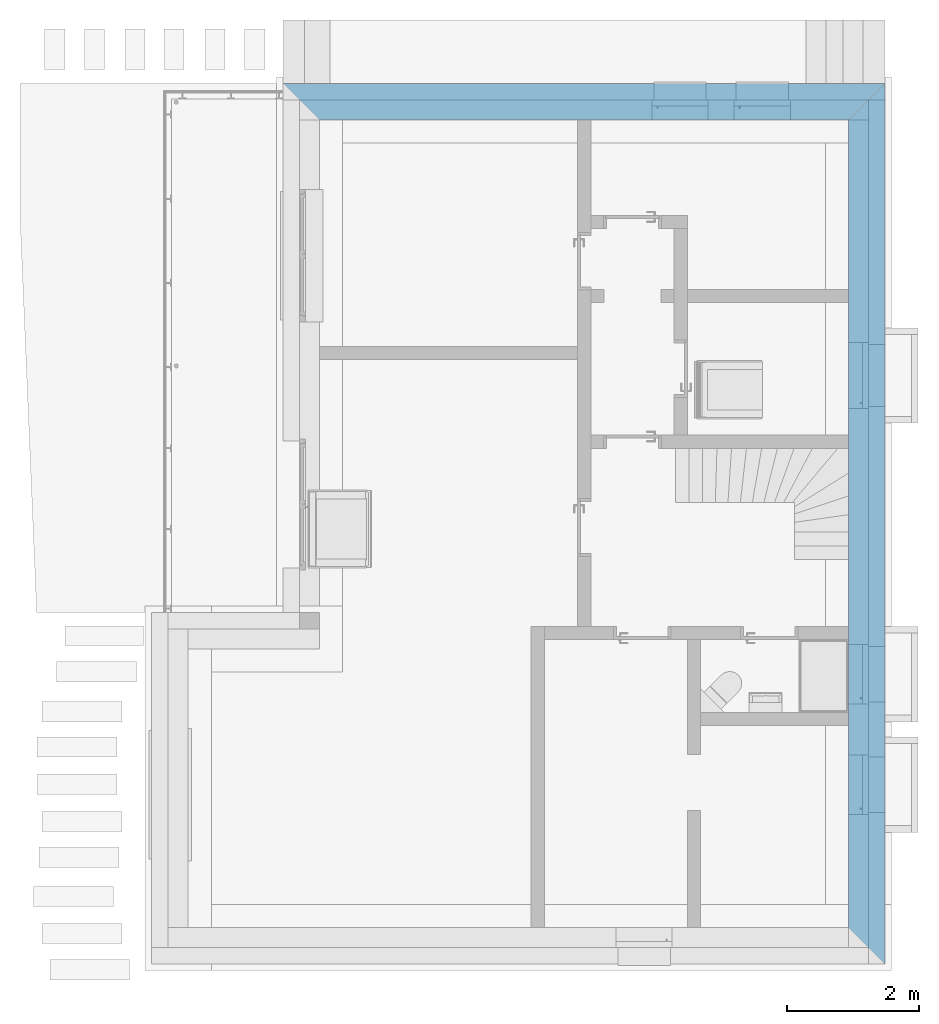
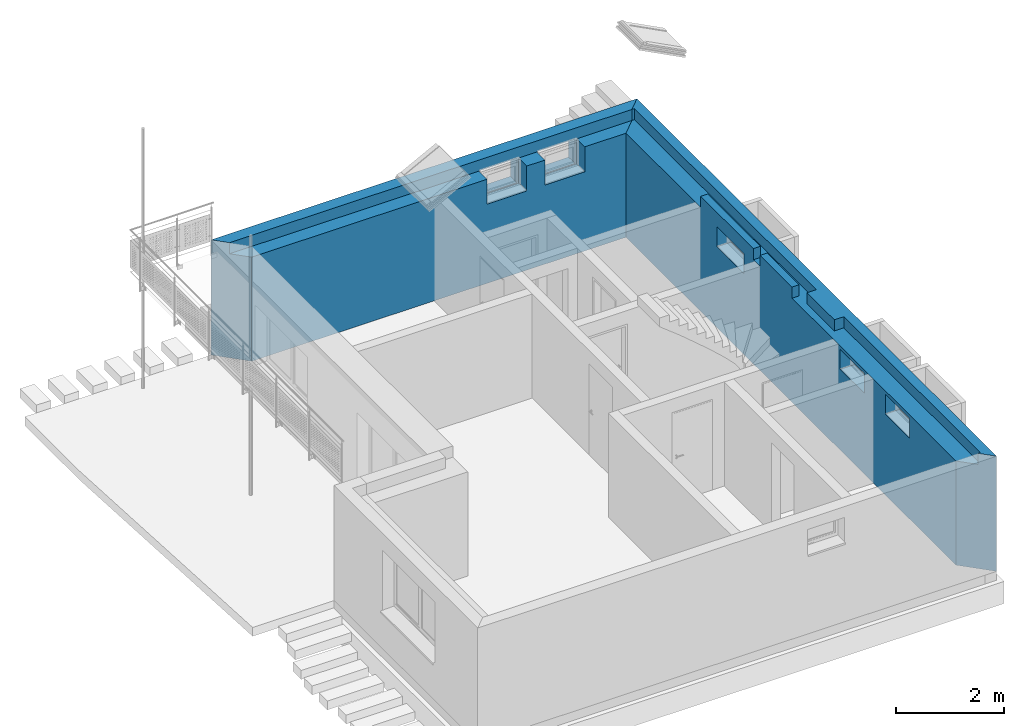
# One storey, part 15 of 22: 2 walls.
"""IFC2X3 building model written with IfcOpenShell, lengths in metres."""

import ifcopenshell
import ifcopenshell.guid

model = None  # the IFC model being written
_history = None  # IfcOwnerHistory: only IFC2X3 demands one
_inside = {}  # id of a spatial element -> (the spatial element, [elements in it])
_under = {}  # id of a project, library or spatial element -> (it, [spatial elements below it])
_declared = {}  # id of a project -> (the project, [libraries it declares])
_typed = {}  # id of a type object -> (the type object, [elements of that type])
_made_of = {}  # id of a material, layer set ... -> (it, [elements and type objects made of it])


def new_model(schema):
    """Start an empty IFC model of exactly this schema.

    Asked for "IFC4X3", IfcOpenShell would pick the latest addendum, in which some entities
    have other attributes; the version numbers below select the first issue.
    IFC2X3 requires an IfcOwnerHistory on every rooted entity: one is made here for all.
    """
    global model, _history
    if schema == "IFC4X3":
        model = ifcopenshell.file(schema_version=(4, 3, 0, 0))
    else:
        model = ifcopenshell.file(schema=schema)
    _inside.clear()
    _under.clear()
    _declared.clear()
    _typed.clear()
    _made_of.clear()
    _history = None
    if model.schema == "IFC2X3":
        org = make("IfcOrganization", Name="unknown")
        user = make(
            "IfcPersonAndOrganization",
            ThePerson=make("IfcPerson", FamilyName="unknown"),
            TheOrganization=org,
        )
        app = make(
            "IfcApplication",
            ApplicationDeveloper=org,
            Version="unknown",
            ApplicationFullName="unknown",
            ApplicationIdentifier="unknown",
        )
        _history = make(
            "IfcOwnerHistory",
            OwningUser=user,
            OwningApplication=app,
            ChangeAction="ADDED",
            CreationDate=0,
        )
    return model


def make(cls, **values):
    """One entity of the class cls with the attributes given. An attribute that is None is left unset."""
    return model.create_entity(
        cls, **{name: value for name, value in values.items() if value is not None}
    )


def entity(cls, *values):
    """Any entity or typed value of the class cls, its attributes in the order of the schema. None: left unset."""
    e = model.create_entity(cls)
    for i, value in enumerate(values):
        if value is not None:
            e[i] = value
    return e


def rooted(cls, **values):
    """An entity with a GlobalId (a new one), such as an element, a storey or a relation."""
    return make(cls, GlobalId=ifcopenshell.guid.new(), OwnerHistory=_history, **values)


def si_unit(unit_type, name, prefix=None):
    """IfcSIUnit, for example si_unit("LENGTHUNIT", "METRE", prefix="MILLI")."""
    return make("IfcSIUnit", UnitType=unit_type, Prefix=prefix, Name=name)


def converted_unit(unit_type, name, factor, base, dimensions=None, offset=None):
    """IfcConversionBasedUnit, such as the inch: factor (a typed value) times the base unit."""
    return make(
        "IfcConversionBasedUnit"
        if offset is None
        else "IfcConversionBasedUnitWithOffset",
        ConversionOffset=offset,
        Dimensions=None
        if dimensions is None
        else entity("IfcDimensionalExponents", *dimensions),
        UnitType=unit_type,
        Name=name,
        ConversionFactor=make(
            "IfcMeasureWithUnit", ValueComponent=factor, UnitComponent=base
        ),
    )


def derived_unit(unit_type, elements):
    """IfcDerivedUnit: a product of units, each with its exponent."""
    return make(
        "IfcDerivedUnit",
        Elements=[
            make("IfcDerivedUnitElement", Unit=unit, Exponent=power)
            for unit, power in elements
        ],
        UnitType=unit_type,
    )


def assignment(units):
    """IfcUnitAssignment: the units of a project."""
    return None if units is None else make("IfcUnitAssignment", Units=units)


def point(xyz):
    """IfcCartesianPoint."""
    return None if xyz is None else make("IfcCartesianPoint", Coordinates=xyz)


def direction(xyz):
    """IfcDirection."""
    return None if xyz is None else make("IfcDirection", DirectionRatios=xyz)


def frame(location, z_axis=None, x_axis=None):
    """IfcAxis2Placement3D, a coordinate frame: its origin and axes. An axis left out is left unset."""
    return make(
        "IfcAxis2Placement3D",
        Location=point(location),
        Axis=direction(z_axis),
        RefDirection=direction(x_axis),
    )


def origin():
    """The frame at (0, 0, 0) with its axes left unset."""
    return frame((0.0, 0.0, 0.0))


def place(relative_to, where):
    """IfcLocalPlacement: puts the frame where relative to a parent placement (None: the world)."""
    return make(
        "IfcLocalPlacement", PlacementRelTo=relative_to, RelativePlacement=where
    )


def context(
    kind, dimensions, precision=None, world=None, true_north=None, identifier=None
):
    """IfcGeometricRepresentationContext, for example the 3D "Model" context."""
    return make(
        "IfcGeometricRepresentationContext",
        ContextIdentifier=identifier,
        ContextType=kind,
        CoordinateSpaceDimension=dimensions,
        Precision=precision,
        WorldCoordinateSystem=world,
        TrueNorth=true_north,
    )


def subcontext(parent, identifier, kind, view, scale=None):
    """IfcGeometricRepresentationSubContext, for example "Body" below "Model"."""
    return make(
        "IfcGeometricRepresentationSubContext",
        ContextIdentifier=identifier,
        ContextType=kind,
        ParentContext=parent,
        TargetScale=scale,
        TargetView=view,
    )


def project(units=None, contexts=None):
    """IfcProject with its units and contexts."""
    return rooted(
        "IfcProject",
        Name="project",
        RepresentationContexts=contexts,
        UnitsInContext=assignment(units),
    )


def spatial(cls, under=None, at=None, **own):
    """A site, building, storey or space (cls), placed at a placement, below another one or the project."""
    s = rooted(cls, ObjectPlacement=at, **own)
    if under is not None:
        _under.setdefault(under.id(), (under, []))[1].append(s)
    return s


def faces_of(points, faces, orient=None, outer=None):
    """IfcFace entities. A face is a list of loops; a loop is a list of indices into points, from 0.

    orient and outer hold one flag for each loop. By default every Orientation is true, the
    first loop of a face is its IfcFaceOuterBound and the others are IfcFaceBound.
    """
    made = []
    for i, loops in enumerate(faces):
        bounds = []
        for j, loop in enumerate(loops):
            is_outer = j == 0 if outer is None else outer[i][j]
            bounds.append(
                make(
                    "IfcFaceOuterBound" if is_outer else "IfcFaceBound",
                    Bound=make("IfcPolyLoop", Polygon=[points[k] for k in loop]),
                    Orientation=True if orient is None else orient[i][j],
                )
            )
        made.append(make("IfcFace", Bounds=bounds))
    return made


def faceted_brep(points, faces, orient=None, outer=None, voids=None):
    """IfcFacetedBrep: a solid bounded by flat faces; with voids (closed shells), ...WithVoids."""
    shared = [point(p) for p in points]
    hull = make("IfcClosedShell", CfsFaces=faces_of(shared, faces, orient, outer))
    if voids is None:
        return make("IfcFacetedBrep", Outer=hull)
    return make(
        "IfcFacetedBrepWithVoids",
        Outer=hull,
        Voids=[
            make(cls, CfsFaces=faces_of(shared, fs, o, b)) for cls, fs, o, b in voids
        ],
    )


def shape(context_of_items, identifier, shape_type, items):
    """IfcShapeRepresentation: the items that make up one representation, for example the "Body"."""
    return make(
        "IfcShapeRepresentation",
        ContextOfItems=context_of_items,
        RepresentationIdentifier=identifier,
        RepresentationType=shape_type,
        Items=items,
    )


def material(Name=None, Category=None):
    """IfcMaterial."""
    return make("IfcMaterial", Name=Name, Category=Category)


def layer(
    of_material, thickness, ventilated=None, Name=None, Category=None, Priority=None
):
    """IfcMaterialLayer: one layer of a wall or slab, of a material (None: an air gap)."""
    return make(
        "IfcMaterialLayer",
        Material=of_material,
        LayerThickness=thickness,
        IsVentilated=ventilated,
        Name=Name,
        Category=Category,
        Priority=Priority,
    )


def layer_set(layers, Name=None):
    """IfcMaterialLayerSet."""
    return make("IfcMaterialLayerSet", MaterialLayers=layers, LayerSetName=Name)


def made_of(thing, what):
    """Note that an element or type object is made of a material, layer set ...; save() writes the relation."""
    if what is not None:
        _made_of.setdefault(what.id(), (what, []))[1].append(thing)
    return thing


def type_object(cls, material=None, **own):
    """A type object (cls), such as IfcWallType, which elements share."""
    return made_of(rooted(cls, **own), material)


def element(
    cls,
    number,
    at=None,
    inside=None,
    cuts=None,
    type_object=None,
    material=None,
    context=None,
    identifier="Body",
    shape_type=None,
    held_by="IfcProductDefinitionShape",
    body=None,
    shapes=None,
    **own,
):
    """One element of the class cls, such as IfcWall. Its Tag is "e" and its number.

    at: its placement. inside: the storey or other place that contains it. cuts: it is an
    opening in that element (IfcRelVoidsElement). A single representation is given by context,
    identifier, shape_type and body (its items); several are given by shapes. held_by: the class
    of the entity that holds the representations. save() writes the other relations.
    """
    e = rooted(cls, Tag="e%d" % number, ObjectPlacement=at, **own)
    if body is not None:
        shapes = [shape(context, identifier, shape_type, body)]
    if shapes is not None:
        e.Representation = make(held_by, Representations=shapes)
    if inside is not None:
        _inside.setdefault(inside.id(), (inside, []))[1].append(e)
    if cuts is not None:
        rooted(
            "IfcRelVoidsElement", RelatingBuildingElement=cuts, RelatedOpeningElement=e
        )
    if type_object is not None:
        _typed.setdefault(type_object.id(), (type_object, []))[1].append(e)
    return made_of(e, material)


def aggregate(whole, parts):
    """IfcRelAggregates: a whole, such as a stair, and the parts it consists of."""
    return rooted("IfcRelAggregates", RelatingObject=whole, RelatedObjects=parts)


def save(model, path):
    """Write the relations noted so far, then the file.

    IfcRelAggregates (storeys below a building ...), IfcRelContainedInSpatialStructure (elements
    in a storey), IfcRelDefinesByType, IfcRelAssociatesMaterial and IfcRelDeclares: one each for
    every whole, place, type object, material and project.
    """
    for whole, parts in _under.values():
        aggregate(whole, parts)
    for where, things in _inside.values():
        rooted(
            "IfcRelContainedInSpatialStructure",
            RelatedElements=things,
            RelatingStructure=where,
        )
    for kind, things in _typed.values():
        rooted("IfcRelDefinesByType", RelatedObjects=things, RelatingType=kind)
    for what, things in _made_of.values():
        rooted("IfcRelAssociatesMaterial", RelatedObjects=things, RelatingMaterial=what)
    for by, libraries in _declared.values():
        rooted("IfcRelDeclares", RelatingContext=by, RelatedDefinitions=libraries)
    model.write(path)


model = new_model("IFC2X3")

# Units and contexts
model_context = context("Model", 3, precision=1e-05, world=origin(), true_north=direction((6.123233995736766e-17, 1.0)))
body_context = subcontext(model_context, "Body", "Model", "MODEL_VIEW")
ifc_project = project(units=[si_unit("LENGTHUNIT", "METRE"), si_unit("AREAUNIT", "SQUARE_METRE"), si_unit("VOLUMEUNIT", "CUBIC_METRE"), si_unit("POWERUNIT", "WATT"), derived_unit("USERDEFINED", [(si_unit("MASSUNIT", "GRAM", prefix="KILO"), 1), (si_unit("TIMEUNIT", "SECOND"), -3)]), derived_unit("THERMALRESISTANCEUNIT", [(si_unit("MASSUNIT", "GRAM", prefix="KILO"), -1), (si_unit("TIMEUNIT", "SECOND"), 3), (si_unit("THERMODYNAMICTEMPERATUREUNIT", "KELVIN"), 1)]), derived_unit("USERDEFINED", [(si_unit("MASSUNIT", "GRAM", prefix="KILO"), 1), (si_unit("TIMEUNIT", "SECOND"), -2), (si_unit("THERMODYNAMICTEMPERATUREUNIT", "KELVIN"), -1)]), derived_unit("THERMALTRANSMITTANCEUNIT", [(si_unit("MASSUNIT", "GRAM", prefix="KILO"), 1), (si_unit("TIMEUNIT", "SECOND"), -3), (si_unit("THERMODYNAMICTEMPERATUREUNIT", "KELVIN"), -1)]), converted_unit("PLANEANGLEUNIT", "DEGREE", entity("IfcPlaneAngleMeasure", 0.017453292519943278), si_unit("PLANEANGLEUNIT", "RADIAN"), dimensions=[0, 0, 0, 0, 0, 0, 0]), derived_unit("MOMENTOFINERTIAUNIT", [(si_unit("LENGTHUNIT", "METRE"), 4)])], contexts=[model_context])

# Site, building, storey
site_placement = place(None, origin())
site = spatial("IfcSite", under=ifc_project, at=site_placement, Name="Default", CompositionType="ELEMENT")
building_placement = place(site_placement, origin())
building = spatial("IfcBuilding", under=site, at=building_placement, CompositionType="ELEMENT")
storey_placement = place(building_placement, origin())
storey = spatial("IfcBuildingStorey", under=building, at=storey_placement, Name="Untergeschoss", CompositionType="ELEMENT", Elevation=0.0)

# Walls
ifc_material_1 = material(Name="Dämmung - hart")
ifc_layer_1 = layer(ifc_material_1, 0.24999999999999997)
ifc_material_2 = material(Name="Mauerwerk - Ziegel")
ifc_layer_2 = layer(ifc_material_2, 0.29999999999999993)
ifc_layer_set = layer_set([ifc_layer_1, ifc_layer_2], Name="Basiswand:Ziegel+WD hart 300+250")
wall_type = type_object("IfcWallType", Name="Basiswand:Ziegel+WD hart 300+250", PredefinedType="STANDARD", material=ifc_layer_set)
wall_1_placement = place(storey_placement, frame((29.53672000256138, 28.317272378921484, 0.0)))
element("IfcWall", 1, at=wall_1_placement, inside=storey, type_object=wall_type, Name="Basiswand:Ziegel+WD hart 300+250", ObjectType="Basiswand:Ziegel+WD hart 300+250", context=body_context, shape_type="Brep", body=[
    faceted_brep([(0.5500000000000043, -0.2749999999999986, 0.0), (8.540000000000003, -0.2749999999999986, 0.0), (8.540000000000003, -0.2749999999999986, 2.35), (7.660000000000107, -0.27500000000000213, 2.35), (7.660000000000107, -0.27500000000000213, 1.7862784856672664), (6.810000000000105, -0.2749999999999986, 1.7862784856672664), (6.810000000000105, -0.2749999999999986, 2.35), (6.420000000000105, -0.27500000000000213, 2.35), (6.420000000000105, -0.27500000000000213, 1.7862784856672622), (5.57000000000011, -0.2749999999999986, 1.7862784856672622), (5.57000000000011, -0.2749999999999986, 2.35), (0.5500000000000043, -0.2749999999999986, 2.35), (9.090000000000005, 0.2749999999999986, 0.0), (0.0, 0.2749999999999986, 0.0), (0.0, 0.2749999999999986, 2.6), (9.090000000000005, 0.2749999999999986, 2.6), (5.600000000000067, 0.27500000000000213, 2.356278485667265), (5.600000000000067, 0.27500000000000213, 1.79627848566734), (6.390000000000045, 0.2749999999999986, 1.7962784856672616), (6.390000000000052, 0.2749999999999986, 2.356278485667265), (6.840000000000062, 0.27500000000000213, 2.3562784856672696), (6.840000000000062, 0.27500000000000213, 1.7962784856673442), (7.630000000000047, 0.2749999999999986, 1.7962784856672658), (7.630000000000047, 0.2749999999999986, 2.3562784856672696), (0.2500000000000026, 0.02500000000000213, 2.6), (8.840000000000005, 0.02500000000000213, 2.6), (8.84000000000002, 0.025000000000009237, 2.35), (0.25000000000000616, 0.02499999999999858, 2.35), (5.5700000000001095, 0.025000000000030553, 2.35), (6.420000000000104, 0.025000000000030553, 1.7862784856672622), (5.5700000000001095, 0.025000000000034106, 1.7862784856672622), (6.420000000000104, 0.025000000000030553, 2.35), (6.810000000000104, 0.025000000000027, 2.35), (6.810000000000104, 0.025000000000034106, 1.7862784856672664), (7.660000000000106, 0.025000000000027, 1.7862784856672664), (7.660000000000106, 0.025000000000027, 2.35), (6.390000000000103, 0.025000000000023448, 1.8062784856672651), (5.600000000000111, 0.025000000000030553, 1.8062784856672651), (5.600000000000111, 0.025000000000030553, 2.356278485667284), (6.390000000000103, 0.025000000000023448, 2.356278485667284), (7.630000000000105, 0.025000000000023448, 1.8062784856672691), (6.8400000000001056, 0.025000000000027, 1.806278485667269), (6.8400000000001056, 0.025000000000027, 2.356278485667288), (7.630000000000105, 0.025000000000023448, 2.356278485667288)], [[[0, 1, 2, 3, 4, 5, 6, 7, 8, 9, 10, 11]], [[12, 13, 14, 15], [16, 17, 18, 19], [20, 21, 22, 23]], [[1, 0, 13, 12]], [[15, 14, 24, 25]], [[1, 12, 15, 25, 26, 2]], [[14, 13, 0, 11, 27, 24]], [[28, 27, 11, 10]], [[8, 29, 30, 9]], [[29, 8, 7, 31]], [[9, 30, 28, 10]], [[30, 29, 31, 32, 33, 34, 35, 26, 25, 24, 27, 28], [36, 37, 38, 39], [40, 41, 42, 43]], [[38, 37, 17, 16]], [[37, 36, 18, 17]], [[18, 36, 39, 19]], [[39, 38, 16, 19]], [[4, 34, 33, 5]], [[34, 4, 3, 35]], [[5, 33, 32, 6]], [[42, 41, 21, 20]], [[41, 40, 22, 21]], [[22, 40, 43, 23]], [[43, 42, 20, 23]], [[32, 31, 7, 6]], [[26, 35, 3, 2]]]),
])
wall_2_placement = place(storey_placement, frame((38.351720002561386, 28.59227237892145, 0.0), z_axis=(0.0, 0.0, 1.0), x_axis=(0.0, -1.0, 0.0)))
element("IfcWall", 2, at=wall_2_placement, inside=storey, type_object=wall_type, Name="Basiswand:Ziegel+WD hart 300+250", ObjectType="Basiswand:Ziegel+WD hart 300+250", context=body_context, shape_type="Brep", body=[
    faceted_brep([(0.5500000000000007, -0.2750000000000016, 0.0), (5.310000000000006, -0.2750000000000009, 0.0), (5.510000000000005, -0.2750000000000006, 0.0), (8.200000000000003, -0.2750000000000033, 0.0), (8.399999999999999, -0.275000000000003, 0.0), (9.499999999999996, -0.2750000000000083, 0.0), (9.699999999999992, -0.27500000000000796, 0.0), (12.749999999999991, -0.275000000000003, 0.0), (12.749999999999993, -0.275000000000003, 2.35), (9.7, -0.27500000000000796, 2.35), (9.499999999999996, -0.2750000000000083, 2.35), (8.399999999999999, -0.275000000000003, 2.35), (8.200000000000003, -0.2750000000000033, 2.35), (6.690000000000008, -0.2750000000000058, 2.35), (6.690000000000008, -0.2750000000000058, 2.6), (5.510000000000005, -0.2750000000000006, 2.6), (5.510000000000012, -0.2750000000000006, 2.35), (5.310000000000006, -0.2750000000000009, 2.35), (5.260000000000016, -0.275000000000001, 2.35), (5.260000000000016, -0.275000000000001, 2.6), (3.309999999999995, -0.2750000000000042, 2.6), (3.3099999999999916, -0.2750000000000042, 2.35), (0.5500000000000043, -0.2750000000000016, 2.35), (8.470000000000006, -0.2750000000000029, 2.274999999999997), (9.370000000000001, -0.2750000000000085, 2.274999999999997), (9.370000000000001, -0.2750000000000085, 1.825), (8.470000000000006, -0.2750000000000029, 1.825), (10.139999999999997, -0.2750000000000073, 2.274999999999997), (11.039999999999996, -0.2750000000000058, 2.274999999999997), (11.039999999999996, -0.2750000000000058, 1.825), (10.139999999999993, -0.2750000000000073, 1.825), (3.9100000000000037, -0.2750000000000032, 2.2749999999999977), (4.91, -0.2750000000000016, 2.2749999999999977), (4.91, -0.2750000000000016, 1.8250000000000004), (3.9100000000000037, -0.2750000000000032, 1.8250000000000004), (13.299999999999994, 0.274999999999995, 0.0), (0.0, 0.2749999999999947, 0.0), (0.0, 0.2749999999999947, 2.6), (13.29999999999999, 0.274999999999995, 2.6), (9.340000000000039, 0.2749999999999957, 1.8350000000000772), (9.340000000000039, 0.2749999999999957, 2.2450000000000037), (8.500000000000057, 0.2749999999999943, 2.2450000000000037), (8.50000000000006, 0.2749999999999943, 1.8350000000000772), (11.01000000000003, 0.2749999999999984, 1.8350000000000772), (11.01000000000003, 0.2749999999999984, 2.2450000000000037), (10.170000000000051, 0.274999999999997, 2.2450000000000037), (10.170000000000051, 0.274999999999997, 1.835000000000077), (4.880000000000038, 0.2749999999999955, 1.8350000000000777), (4.8800000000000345, 0.2749999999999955, 2.245000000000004), (3.940000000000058, 0.27500000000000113, 2.245000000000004), (3.940000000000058, 0.27500000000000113, 1.8350000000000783), (6.690000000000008, -0.1250000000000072, 2.6), (5.510000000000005, -0.1250000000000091, 2.6), (0.2499999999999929, 0.02499999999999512, 2.35), (0.2499999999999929, 0.02499999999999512, 2.6), (13.049999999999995, 0.025000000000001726, 2.6), (13.049999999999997, 0.025000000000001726, 2.35), (6.98500000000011, 0.07499999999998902, 2.35), (0.2499999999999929, 0.07499999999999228, 2.35), (3.309999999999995, -0.12500000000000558, 2.35), (5.260000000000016, -0.12500000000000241, 2.35), (5.510000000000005, -0.1250000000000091, 2.35), (6.690000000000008, -0.1250000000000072, 2.35), (13.049999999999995, 0.07499999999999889, 2.35), (7.995000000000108, 0.07499999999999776, 2.35), (7.995000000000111, -0.12500000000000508, 2.35), (6.985000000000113, -0.12500000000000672, 2.35), (13.049999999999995, 0.07499999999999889, 2.6), (7.995000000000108, 0.07499999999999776, 2.6), (8.470000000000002, 0.0250000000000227, 2.274999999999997), (9.370000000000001, 0.025000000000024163, 2.274999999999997), (8.470000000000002, 0.0250000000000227, 1.825), (9.370000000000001, 0.025000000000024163, 1.825), (9.34, 0.02500000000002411, 2.245000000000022), (9.34, 0.02500000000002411, 1.8450000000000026), (8.500000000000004, 0.025000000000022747, 1.8450000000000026), (8.500000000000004, 0.025000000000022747, 2.245000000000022), (10.139999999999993, 0.02500000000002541, 2.274999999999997), (11.039999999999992, 0.025000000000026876, 2.274999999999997), (10.139999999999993, 0.02500000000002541, 1.825), (11.039999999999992, 0.025000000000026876, 1.825), (11.009999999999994, 0.025000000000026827, 2.245000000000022), (11.009999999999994, 0.025000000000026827, 1.8450000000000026), (10.169999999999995, 0.025000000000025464, 1.8450000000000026), (10.169999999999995, 0.025000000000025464, 2.245000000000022), (6.98500000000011, 0.07499999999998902, 2.6), (0.2499999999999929, 0.07499999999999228, 2.6), (6.985000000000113, -0.12500000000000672, 2.6), (7.995000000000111, -0.12500000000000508, 2.6), (3.91, 0.025000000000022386, 2.2749999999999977), (4.909999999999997, 0.025000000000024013, 2.2749999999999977), (3.91, 0.025000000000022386, 1.8250000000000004), (4.909999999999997, 0.025000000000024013, 1.8250000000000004), (4.879999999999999, 0.025000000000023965, 2.2450000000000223), (4.879999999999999, 0.025000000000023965, 1.845000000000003), (3.9400000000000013, 0.025000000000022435, 1.845000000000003), (3.9400000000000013, 0.025000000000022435, 2.2450000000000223), (3.309999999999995, -0.12500000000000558, 2.6), (5.260000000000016, -0.12500000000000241, 2.6)], [[[0, 1, 2, 3, 4, 5, 6, 7, 8, 9, 10, 11, 12, 13, 14, 15, 16, 17, 18, 19, 20, 21, 22], [23, 24, 25, 26], [27, 28, 29, 30], [31, 32, 33, 34]], [[35, 36, 37, 38], [39, 40, 41, 42], [43, 44, 45, 46], [47, 48, 49, 50]], [[7, 6, 5, 4, 3, 2, 1, 0, 36, 35]], [[15, 14, 51, 52]], [[37, 36, 0, 22, 53, 54]], [[7, 35, 38, 55, 56, 8]], [[57, 58, 53, 22, 21, 59, 60, 18, 17, 16, 61, 62, 13, 12, 11, 10, 9, 8, 56, 63, 64, 65, 66]], [[64, 63, 67, 68]], [[67, 63, 56, 55]], [[62, 51, 14, 13]], [[62, 61, 52, 51]], [[52, 61, 16, 15]], [[69, 70, 24, 23]], [[71, 26, 25, 72]], [[69, 23, 26, 71]], [[24, 70, 72, 25]], [[70, 69, 71, 72], [73, 74, 75, 76]], [[74, 73, 40, 39]], [[75, 74, 39, 42]], [[76, 75, 42, 41]], [[73, 76, 41, 40]], [[77, 78, 28, 27]], [[79, 30, 29, 80]], [[77, 27, 30, 79]], [[28, 78, 80, 29]], [[78, 77, 79, 80], [81, 82, 83, 84]], [[82, 81, 44, 43]], [[83, 82, 43, 46]], [[84, 83, 46, 45]], [[81, 84, 45, 44]], [[58, 57, 85, 86]], [[57, 66, 87, 85]], [[66, 65, 88, 87]], [[65, 64, 68, 88]], [[89, 90, 32, 31]], [[91, 34, 33, 92]], [[89, 31, 34, 91]], [[32, 90, 92, 33]], [[90, 89, 91, 92], [93, 94, 95, 96]], [[94, 93, 48, 47]], [[95, 94, 47, 50]], [[96, 95, 50, 49]], [[93, 96, 49, 48]], [[97, 59, 21, 20]], [[60, 98, 19, 18]], [[60, 59, 97, 98]], [[58, 86, 54, 53]], [[20, 19, 98, 97]], [[38, 37, 54, 86, 85, 87, 88, 68, 67, 55]]]),
])

save(model, "model.ifc")
